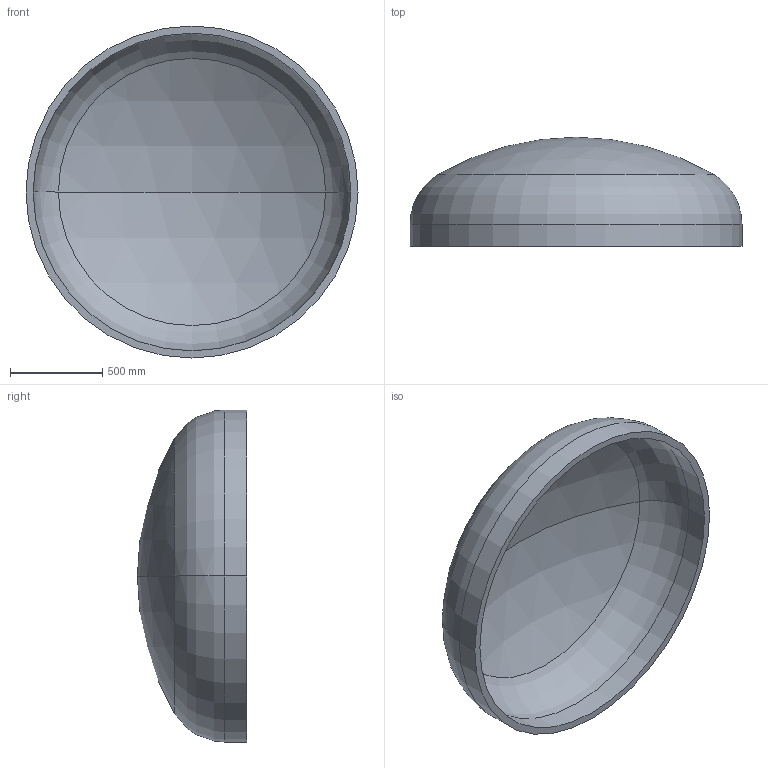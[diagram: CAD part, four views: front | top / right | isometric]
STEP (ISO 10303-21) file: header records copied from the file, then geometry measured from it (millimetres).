
FILE_DESCRIPTION (( 'STEP AP203' ), '1' );
FILE_NAME ('DIN 28013 Korbbogenform_-_Boden DIN 28013 - 1800 x 120 - I - s=39.step', '2016-07-01T12:29:19', ( '' ), ( '' ), 'SwSTEP 2.0', 'SolidWorks 2013', '' );
FILE_SCHEMA (( 'CONFIG_CONTROL_DESIGN' ));
Length unit declared in the file: millimetre
Products named in the file (1): DIN 28013 Korbbogenform_-_Boden DIN 28013 - 1800 x 120 - I - s=39
Bounding box: 1800 x 592.11 x 1800 mm (x, y, z)
Volume: 159269748.5 mm3; surface area: 8386623.9 mm2
Topology: 1 solids, 1 shells, 13 faces, 24 edges, 14 vertices
Faces by surface type: torus 4, cylinder 4, sphere 4, plane 1
Entity records: 407 total; most frequent: DIRECTION 72, CARTESIAN_POINT 52, ORIENTED_EDGE 48, AXIS2_PLACEMENT_3D 34, EDGE_CURVE 24, CIRCLE 20, VERTEX_POINT 14, EDGE_LOOP 14
